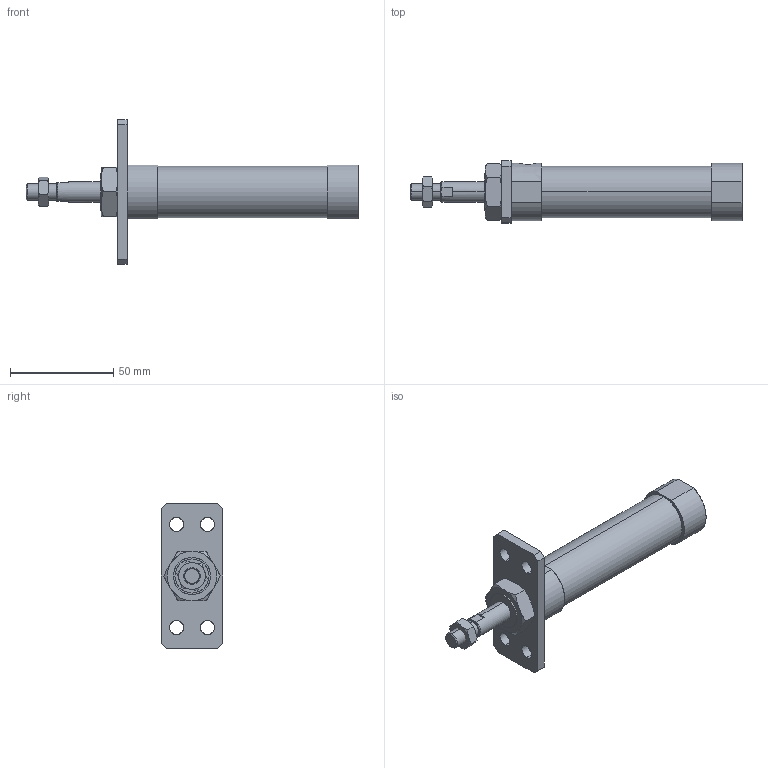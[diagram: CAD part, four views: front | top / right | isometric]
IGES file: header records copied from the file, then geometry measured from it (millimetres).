
Start section: SolidWorks IGES file using analytic representation for surfaces
Global section: file name: C:\Users\Toshiba\Desktop\JGND0-20-15-A.IGS; native system: SolidWorks 2014; preprocessor: SolidWorks 2014; author: Toshiba; date: 160804.100212; units: millimetre
Bounding box: 161 x 30 x 70 mm (x, y, z)
Surface area: 19601.8 mm2 (no closed solid volume)
Topology: 0 solids, 0 shells, 101 faces, 1770 edges, 1770 vertices
Faces by surface type: bspline 67, revolution 34
